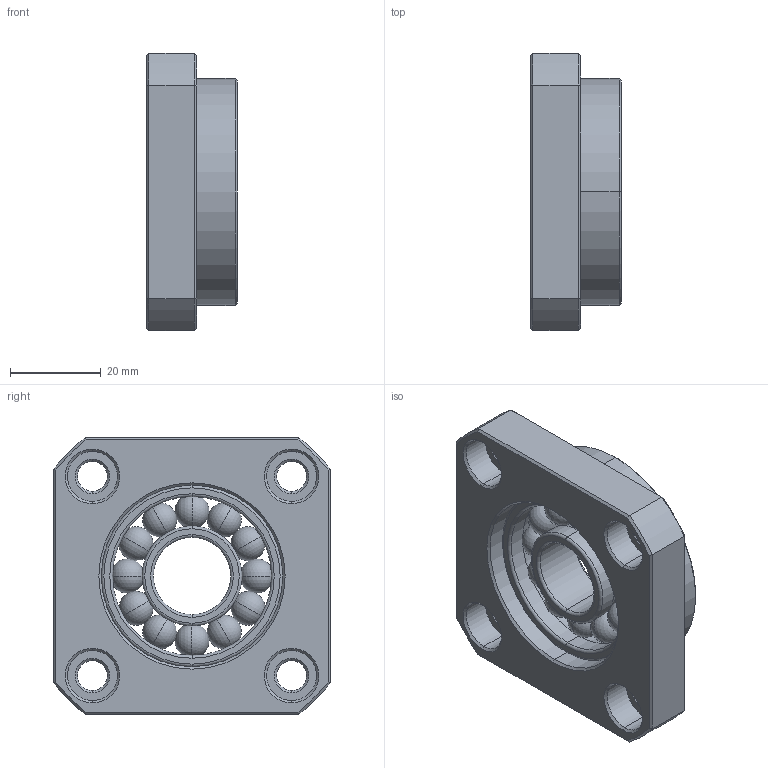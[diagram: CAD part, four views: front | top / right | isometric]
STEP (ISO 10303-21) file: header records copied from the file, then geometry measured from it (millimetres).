
FILE_DESCRIPTION (( 'STEP AP203' ), '1' );
FILE_NAME ('FF17²Õ¦X¥ó.STEP', '2017-12-27T08:47:58', ( '' ), ( '' ), 'SwSTEP 2.0', 'SolidWorks 2017', '' );
FILE_SCHEMA (( 'CONFIG_CONTROL_DESIGN' ));
Length unit declared in the file: millimetre
Products named in the file (1): FF17組合件
Bounding box: 20 x 61 x 61 mm (x, y, z)
Surface area: 17644 mm2 (no closed solid volume)
Topology: 0 solids, 15 shells, 141 faces, 334 edges, 204 vertices
Faces by surface type: cone 38, cylinder 34, sphere 24, plane 23, torus 22
Entity records: 3705 total; most frequent: DIRECTION 716, CARTESIAN_POINT 632, ORIENTED_EDGE 544, AXIS2_PLACEMENT_3D 316, EDGE_CURVE 274, CIRCLE 174, VERTEX_POINT 168, EDGE_LOOP 160
